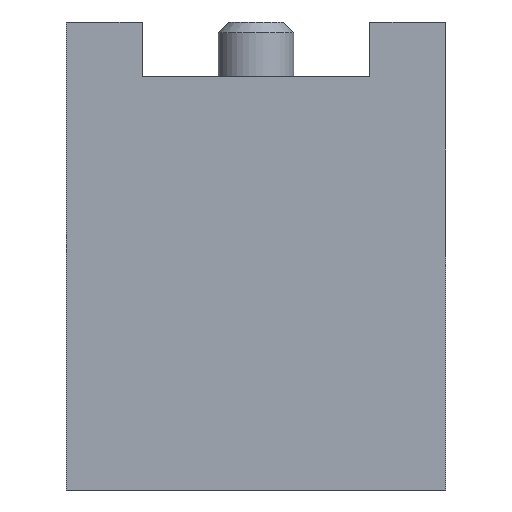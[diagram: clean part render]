
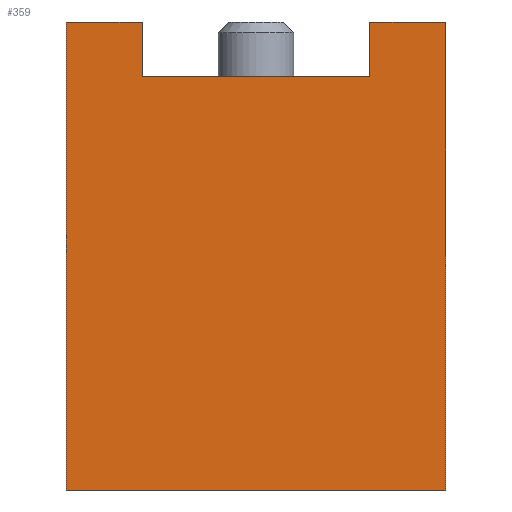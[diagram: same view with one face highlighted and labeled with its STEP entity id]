
A CAD part, front view. The second image highlights one B-rep face of the part: STEP entity #359.
In plain terms, the highlighted planar face has unit normal (0, -1, 0).
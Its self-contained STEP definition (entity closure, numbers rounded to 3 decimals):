
#2=DIRECTION('',(-1.,0.,0.));
#3=VECTOR('',#2,2.1);
#4=CARTESIAN_POINT('',(1.05,0.,2.04));
#5=LINE('',#4,#3);
#6=DIRECTION('',(0.,0.,-1.));
#7=VECTOR('',#6,0.5);
#8=CARTESIAN_POINT('',(1.05,0.,2.54));
#9=LINE('',#8,#7);
#10=DIRECTION('',(1.,0.,0.));
#11=VECTOR('',#10,0.7);
#12=CARTESIAN_POINT('',(1.05,0.,2.54));
#13=LINE('',#12,#11);
#14=DIRECTION('',(0.,0.,-1.));
#15=VECTOR('',#14,4.32);
#16=CARTESIAN_POINT('',(1.75,0.,2.54));
#17=LINE('',#16,#15);
#18=DIRECTION('',(-1.,0.,0.));
#19=VECTOR('',#18,3.5);
#20=CARTESIAN_POINT('',(1.75,0.,-1.78));
#21=LINE('',#20,#19);
#22=DIRECTION('',(0.,0.,1.));
#23=VECTOR('',#22,4.32);
#24=CARTESIAN_POINT('',(-1.75,0.,-1.78));
#25=LINE('',#24,#23);
#26=DIRECTION('',(1.,0.,0.));
#27=VECTOR('',#26,0.7);
#28=CARTESIAN_POINT('',(-1.75,0.,2.54));
#29=LINE('',#28,#27);
#30=DIRECTION('',(0.,0.,-1.));
#31=VECTOR('',#30,0.5);
#32=CARTESIAN_POINT('',(-1.05,0.,2.54));
#33=LINE('',#32,#31);
#260=CARTESIAN_POINT('',(1.75,0.,2.54));
#261=CARTESIAN_POINT('',(1.75,0.,-1.78));
#262=VERTEX_POINT('',#260);
#263=VERTEX_POINT('',#261);
#264=CARTESIAN_POINT('',(-1.75,0.,-1.78));
#265=VERTEX_POINT('',#264);
#266=CARTESIAN_POINT('',(-1.75,0.,2.54));
#267=VERTEX_POINT('',#266);
#284=CARTESIAN_POINT('',(1.05,0.,2.04));
#285=CARTESIAN_POINT('',(-1.05,0.,2.04));
#286=VERTEX_POINT('',#284);
#287=VERTEX_POINT('',#285);
#288=CARTESIAN_POINT('',(-1.05,0.,2.54));
#289=VERTEX_POINT('',#288);
#290=CARTESIAN_POINT('',(1.05,0.,2.54));
#291=VERTEX_POINT('',#290);
#336=CARTESIAN_POINT('',(0.,0.,0.));
#337=DIRECTION('',(0.,1.,0.));
#338=DIRECTION('',(1.,0.,0.));
#339=AXIS2_PLACEMENT_3D('',#336,#337,#338);
#340=PLANE('',#339);
#342=ORIENTED_EDGE('',*,*,#341,.F.);
#344=ORIENTED_EDGE('',*,*,#343,.F.);
#346=ORIENTED_EDGE('',*,*,#345,.T.);
#348=ORIENTED_EDGE('',*,*,#347,.T.);
#350=ORIENTED_EDGE('',*,*,#349,.T.);
#352=ORIENTED_EDGE('',*,*,#351,.T.);
#354=ORIENTED_EDGE('',*,*,#353,.T.);
#356=ORIENTED_EDGE('',*,*,#355,.T.);
#357=EDGE_LOOP('',(#342,#344,#346,#348,#350,#352,#354,#356));
#358=FACE_OUTER_BOUND('',#357,.F.);
#359=ADVANCED_FACE('',(#358),#340,.F.);
#341=EDGE_CURVE('',#286,#287,#5,.T.);
#343=EDGE_CURVE('',#291,#286,#9,.T.);
#345=EDGE_CURVE('',#291,#262,#13,.T.);
#347=EDGE_CURVE('',#262,#263,#17,.T.);
#349=EDGE_CURVE('',#263,#265,#21,.T.);
#351=EDGE_CURVE('',#265,#267,#25,.T.);
#353=EDGE_CURVE('',#267,#289,#29,.T.);
#355=EDGE_CURVE('',#289,#287,#33,.T.);
